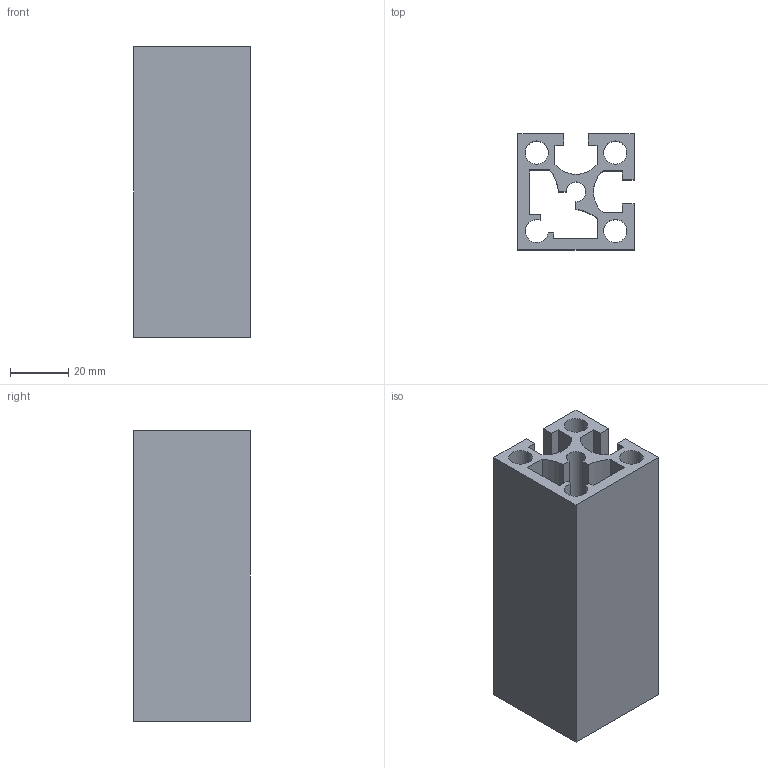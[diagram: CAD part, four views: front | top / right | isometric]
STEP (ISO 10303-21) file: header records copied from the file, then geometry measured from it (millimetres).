
FILE_DESCRIPTION(/* description */ ('Unknown'),/* implementation_level */ '2;1');
FILE_NAME(/* name */ 'NM4040C2',/* time_stamp */ '2026-08-31T11:35:42+08:00',/* author */ ('Unknown'),/* organization */ ('Unknown'),/* preprocessor_version */ 'ST-DEVELOPER v16.7',/* originating_system */ 'DEX',/* authorisation */ $);
FILE_SCHEMA (('AUTOMOTIVE_DESIGN {1 0 10303 214 3 1 1}'));
Length unit declared in the file: millimetre
Products named in the file (1): 4040C2
Bounding box: 40 x 40 x 100 mm (x, y, z)
Volume: 70423 mm3; surface area: 43131.5 mm2
Topology: 1 solids, 1 shells, 40 faces, 114 edges, 76 vertices
Faces by surface type: plane 30, cylinder 10
Full cylindrical faces by diameter (mm): 8 x3
Entity records: 1329 total; most frequent: CARTESIAN_POINT 228, ORIENTED_EDGE 222, DIRECTION 213, EDGE_CURVE 111, LINE 91, VECTOR 91, VERTEX_POINT 76, AXIS2_PLACEMENT_3D 61
